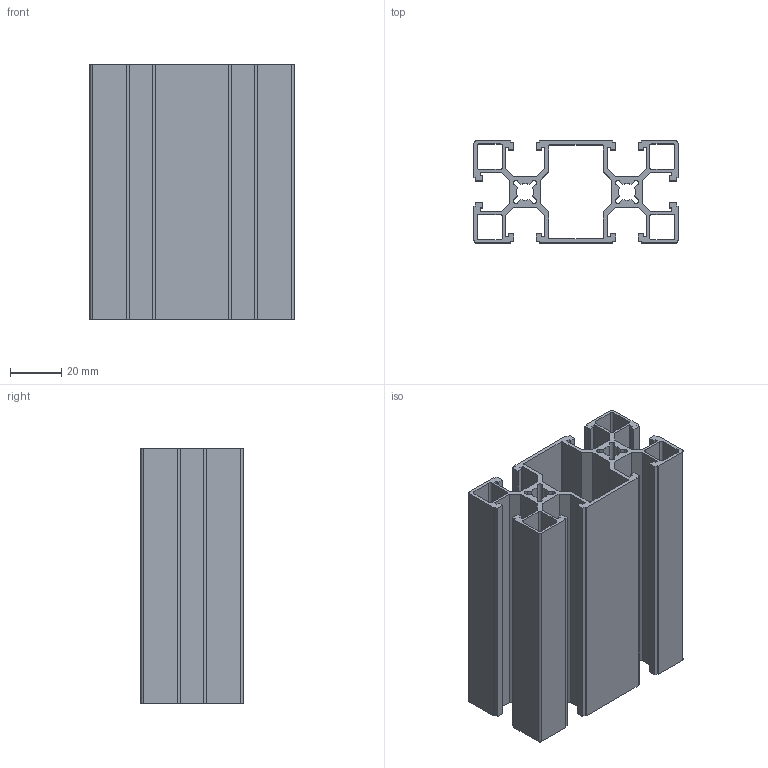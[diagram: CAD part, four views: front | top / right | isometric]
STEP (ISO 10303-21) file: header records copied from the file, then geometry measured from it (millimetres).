
FILE_DESCRIPTION(/* description */ (''),/* implementation_level */ '2;1');
FILE_NAME(/* name */ 'C:\Users\Owner\Documents\硯聰\Inv材料庫-自訂\AM\AM8\AM8-P4080_100L.stp',/* time_stamp */ '2019-05-02T09:04:43+08:00',/* author */ ('Owner'),/* organization */ (''),/* preprocessor_version */ 'ST-DEVELOPER v16.1',/* originating_system */ 'Autodesk Inventor 2016',/* authorisation */ '');
FILE_SCHEMA (('AUTOMOTIVE_DESIGN { 1 0 10303 214 3 1 1 }'));
Length unit declared in the file: millimetre
Products named in the file (1): AM8-P4080_100L
Bounding box: 80 x 40 x 100 mm (x, y, z)
Volume: 68580.4 mm3; surface area: 85847 mm2
Topology: 1 solids, 1 shells, 198 faces, 588 edges, 392 vertices
Faces by surface type: plane 158, cylinder 40
Entity records: 6624 total; most frequent: CARTESIAN_POINT 1179, ORIENTED_EDGE 1176, DIRECTION 1066, EDGE_CURVE 588, LINE 508, VECTOR 508, VERTEX_POINT 392, AXIS2_PLACEMENT_3D 279
